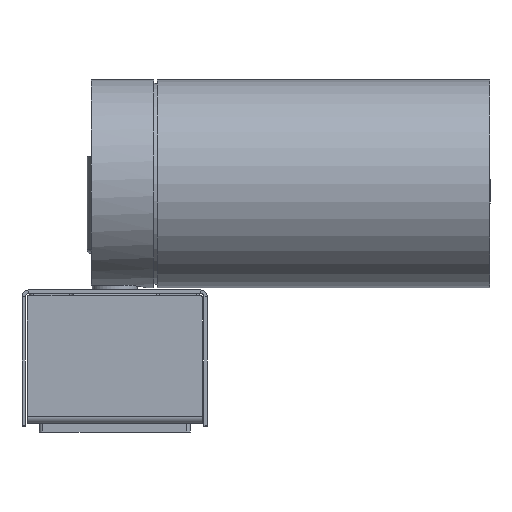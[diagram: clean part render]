
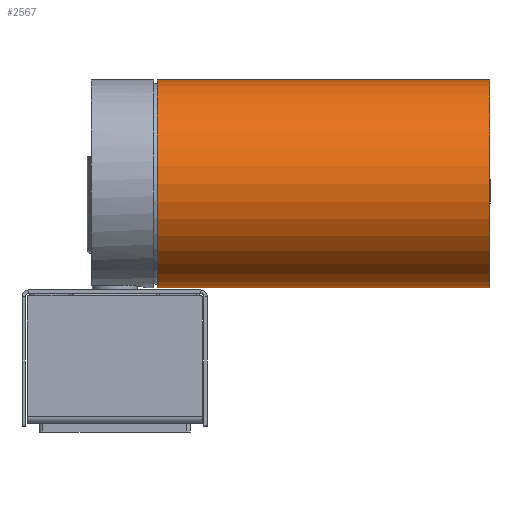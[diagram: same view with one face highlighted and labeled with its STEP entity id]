
A CAD part, front view. The second image highlights one B-rep face of the part: STEP entity #2567.
In plain terms, the highlighted cylindrical face has radius 30 mm (diameter 60 mm), a full revolution.
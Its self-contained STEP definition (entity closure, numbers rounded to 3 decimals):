
#720=FACE_BOUND('',#992,.T.);
#817=FACE_OUTER_BOUND('',#991,.T.);
#991=EDGE_LOOP('',(#2139));
#992=EDGE_LOOP('',(#2140));
#1131=CIRCLE('',#2796,30.);
#1132=CIRCLE('',#2798,30.);
#1319=VERTEX_POINT('',#4150);
#1320=VERTEX_POINT('',#4153);
#1605=EDGE_CURVE('',#1319,#1319,#1131,.T.);
#1606=EDGE_CURVE('',#1320,#1320,#1132,.T.);
#2139=ORIENTED_EDGE('',*,*,#1606,.F.);
#2140=ORIENTED_EDGE('',*,*,#1605,.F.);
#2451=CYLINDRICAL_SURFACE('',#2799,30.);
#2567=ADVANCED_FACE('',(#817,#720),#2451,.T.);
#2796=AXIS2_PLACEMENT_3D('',#4151,#3372,#3373);
#2798=AXIS2_PLACEMENT_3D('',#4154,#3376,#3377);
#2799=AXIS2_PLACEMENT_3D('',#4155,#3378,#3379);
#3372=DIRECTION('center_axis',(-1.,0.,0.));
#3373=DIRECTION('ref_axis',(0.,1.,0.));
#3376=DIRECTION('center_axis',(1.,0.,0.));
#3377=DIRECTION('ref_axis',(0.,1.,0.));
#3378=DIRECTION('center_axis',(-1.,0.,0.));
#3379=DIRECTION('ref_axis',(0.,1.,0.));
#4150=CARTESIAN_POINT('',(12.3,11.,69.1));
#4151=CARTESIAN_POINT('Origin',(12.3,41.,69.1));
#4153=CARTESIAN_POINT('',(108.3,11.,69.1));
#4154=CARTESIAN_POINT('Origin',(108.3,41.,69.1));
#4155=CARTESIAN_POINT('Origin',(60.3,41.,69.1));
